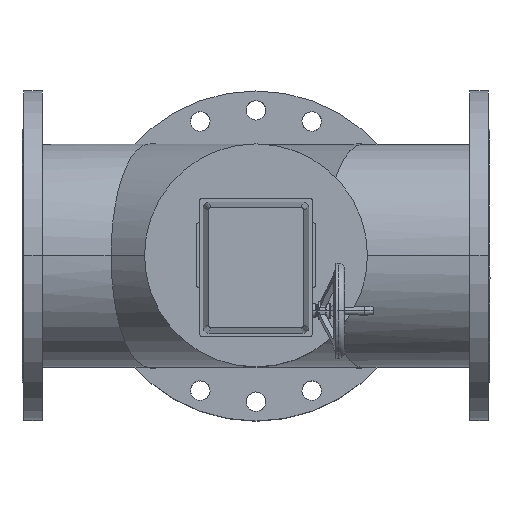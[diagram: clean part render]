
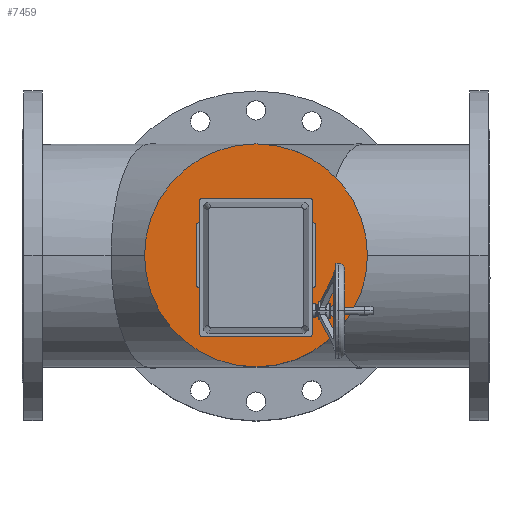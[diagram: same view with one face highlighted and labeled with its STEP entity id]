
A CAD part, top view. The second image highlights one B-rep face of the part: STEP entity #7459.
In plain terms, the highlighted planar face has unit normal (0, 0, 1).
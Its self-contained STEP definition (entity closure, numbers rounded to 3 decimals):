
#1639=FACE_OUTER_BOUND('',#2199,.T.);
#2199=EDGE_LOOP('',(#5676,#5677));
#2794=CIRCLE('',#8245,187.5);
#2795=CIRCLE('',#8246,187.5);
#3382=VERTEX_POINT('',#12128);
#3383=VERTEX_POINT('',#12129);
#4188=EDGE_CURVE('',#3382,#3383,#2794,.T.);
#4189=EDGE_CURVE('',#3383,#3382,#2795,.T.);
#5676=ORIENTED_EDGE('',*,*,#4188,.T.);
#5677=ORIENTED_EDGE('',*,*,#4189,.T.);
#6765=PLANE('',#8244);
#7459=ADVANCED_FACE('',(#1639),#6765,.T.);
#8244=AXIS2_PLACEMENT_3D('',#12127,#9896,#9897);
#8245=AXIS2_PLACEMENT_3D('',#12130,#9898,#9899);
#8246=AXIS2_PLACEMENT_3D('',#12131,#9900,#9901);
#9896=DIRECTION('center_axis',(0.,0.,1.));
#9897=DIRECTION('ref_axis',(0.,-1.,0.));
#9898=DIRECTION('center_axis',(0.,0.,1.));
#9899=DIRECTION('ref_axis',(-1.,0.,0.));
#9900=DIRECTION('center_axis',(0.,0.,1.));
#9901=DIRECTION('ref_axis',(-1.,0.,0.));
#12127=CARTESIAN_POINT('Origin',(-187.5,0.,373.));
#12128=CARTESIAN_POINT('',(187.5,0.,373.));
#12129=CARTESIAN_POINT('',(-187.5,0.,373.));
#12130=CARTESIAN_POINT('Origin',(0.,0.,373.));
#12131=CARTESIAN_POINT('Origin',(0.,0.,373.));
